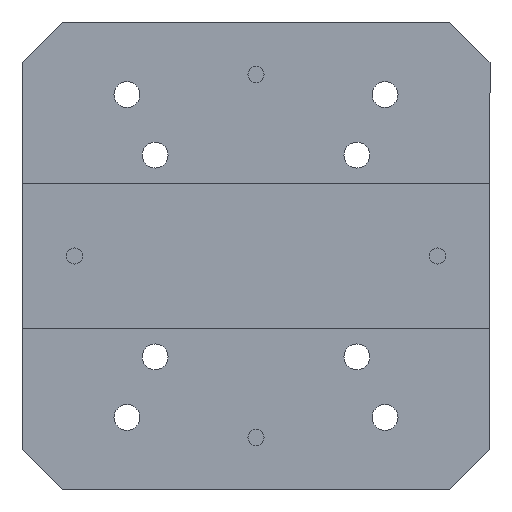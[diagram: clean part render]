
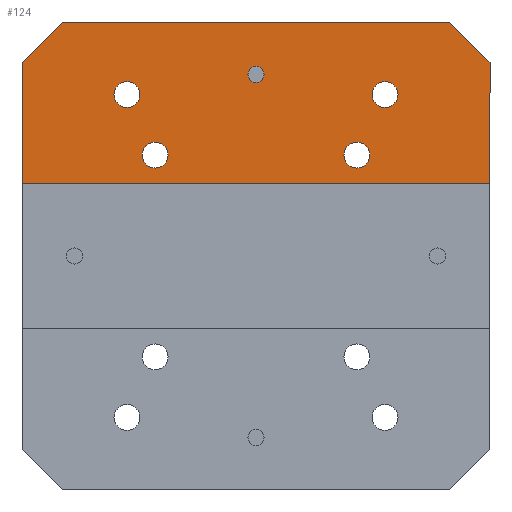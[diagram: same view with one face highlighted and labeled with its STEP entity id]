
A CAD part, front view. The second image highlights one B-rep face of the part: STEP entity #124.
In plain terms, the highlighted planar face has unit normal (0, -1, 0).
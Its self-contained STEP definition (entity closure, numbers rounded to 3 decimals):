
#124 = ADVANCED_FACE ( 'NONE', ( #5062, #2400, #4427, #1476, #4590, #2558 ), #5459, .T. ) ;
#179 = CARTESIAN_POINT ( 'NONE',  ( 13., -0.5, -9. ) ) ;
#241 = CARTESIAN_POINT ( 'NONE',  ( 58., -0.5, -20. ) ) ;
#249 = EDGE_CURVE ( 'NONE', #2523, #5905, #3416, .T. ) ;
#312 = CARTESIAN_POINT ( 'NONE',  ( 26.5, -0.5, 26.5 ) ) ;
#323 = CARTESIAN_POINT ( 'NONE',  ( 0., -0.5, 0. ) ) ;
#341 = CARTESIAN_POINT ( 'NONE',  ( 45., -0.5, -9. ) ) ;
#354 = LINE ( 'NONE', #1502, #974 ) ;
#374 = AXIS2_PLACEMENT_3D ( 'NONE', #1518, #4042, #5971 ) ;
#479 = EDGE_LOOP ( 'NONE', ( #1001, #5338 ) ) ;
#508 = EDGE_CURVE ( 'NONE', #1338, #6144, #1640, .T. ) ;
#593 = DIRECTION ( 'NONE',  ( 0., -1., 0. ) ) ;
#597 = ORIENTED_EDGE ( 'NONE', *, *, #3309, .T. ) ;
#610 = CARTESIAN_POINT ( 'NONE',  ( 5., -0.5, 0. ) ) ;
#632 = CARTESIAN_POINT ( 'NONE',  ( 16.5, -0.5, -14.9 ) ) ;
#656 = DIRECTION ( 'NONE',  ( 0., 0., -1. ) ) ;
#704 = VECTOR ( 'NONE', #1850, 1000. ) ;
#731 = CARTESIAN_POINT ( 'NONE',  ( 29., -0.5, -5.5 ) ) ;
#740 = CARTESIAN_POINT ( 'NONE',  ( 41.5, -0.5, -16.5 ) ) ;
#766 = CARTESIAN_POINT ( 'NONE',  ( 16.5, -0.5, -16.5 ) ) ;
#814 = VECTOR ( 'NONE', #5462, 1000. ) ;
#842 = CARTESIAN_POINT ( 'NONE',  ( 16.5, -0.5, -18.1 ) ) ;
#850 = DIRECTION ( 'NONE',  ( 0., 0., -1. ) ) ;
#874 = ORIENTED_EDGE ( 'NONE', *, *, #5184, .T. ) ;
#875 = CARTESIAN_POINT ( 'NONE',  ( 29., -0.5, -7.5 ) ) ;
#941 = AXIS2_PLACEMENT_3D ( 'NONE', #179, #3151, #656 ) ;
#964 = VECTOR ( 'NONE', #2287, 1000. ) ;
#974 = VECTOR ( 'NONE', #2522, 1000. ) ;
#1001 = ORIENTED_EDGE ( 'NONE', *, *, #2800, .F. ) ;
#1207 = CIRCLE ( 'NONE', #374, 1.6 ) ;
#1273 = CIRCLE ( 'NONE', #5675, 1.6 ) ;
#1281 = CIRCLE ( 'NONE', #1591, 1.6 ) ;
#1291 = LINE ( 'NONE', #241, #964 ) ;
#1338 = VERTEX_POINT ( 'NONE', #4525 ) ;
#1357 = EDGE_CURVE ( 'NONE', #6144, #1338, #5366, .T. ) ;
#1378 = DIRECTION ( 'NONE',  ( 0., -1., 0. ) ) ;
#1420 = DIRECTION ( 'NONE',  ( 0., -1., 0. ) ) ;
#1462 = CARTESIAN_POINT ( 'NONE',  ( 58., -0.5, -5. ) ) ;
#1476 = FACE_BOUND ( 'NONE', #3975, .T. ) ;
#1502 = CARTESIAN_POINT ( 'NONE',  ( 58., -0.5, 0. ) ) ;
#1518 = CARTESIAN_POINT ( 'NONE',  ( 13., -0.5, -9. ) ) ;
#1538 = CARTESIAN_POINT ( 'NONE',  ( 13., -0.5, -7.4 ) ) ;
#1581 = CARTESIAN_POINT ( 'NONE',  ( 53., -0.5, 0. ) ) ;
#1591 = AXIS2_PLACEMENT_3D ( 'NONE', #766, #3828, #850 ) ;
#1609 = LINE ( 'NONE', #2831, #1916 ) ;
#1640 = CIRCLE ( 'NONE', #3725, 1.6 ) ;
#1850 = DIRECTION ( 'NONE',  ( -0.707, 0., 0.707 ) ) ;
#1896 = CIRCLE ( 'NONE', #3413, 1.6 ) ;
#1912 = DIRECTION ( 'NONE',  ( 0., 0., -1. ) ) ;
#1916 = VECTOR ( 'NONE', #5331, 1000. ) ;
#1987 = CARTESIAN_POINT ( 'NONE',  ( 45., -0.5, -7.4 ) ) ;
#2012 = DIRECTION ( 'NONE',  ( 0., 0., -1. ) ) ;
#2086 = EDGE_LOOP ( 'NONE', ( #5907, #4497 ) ) ;
#2102 = AXIS2_PLACEMENT_3D ( 'NONE', #323, #5945, #2012 ) ;
#2115 = DIRECTION ( 'NONE',  ( 0., 0., -1. ) ) ;
#2141 = AXIS2_PLACEMENT_3D ( 'NONE', #5570, #5102, #2115 ) ;
#2175 = VERTEX_POINT ( 'NONE', #3296 ) ;
#2225 = LINE ( 'NONE', #5928, #814 ) ;
#2287 = DIRECTION ( 'NONE',  ( 1., 0., 0. ) ) ;
#2374 = EDGE_CURVE ( 'NONE', #2809, #2938, #5421, .T. ) ;
#2399 = ORIENTED_EDGE ( 'NONE', *, *, #4988, .T. ) ;
#2400 = FACE_BOUND ( 'NONE', #5898, .T. ) ;
#2474 = ORIENTED_EDGE ( 'NONE', *, *, #508, .F. ) ;
#2522 = DIRECTION ( 'NONE',  ( -1., 0., 0. ) ) ;
#2523 = VERTEX_POINT ( 'NONE', #875 ) ;
#2546 = CIRCLE ( 'NONE', #6281, 1.6 ) ;
#2558 = FACE_OUTER_BOUND ( 'NONE', #6212, .T. ) ;
#2668 = CARTESIAN_POINT ( 'NONE',  ( 41.5, -0.5, -16.5 ) ) ;
#2759 = CARTESIAN_POINT ( 'NONE',  ( 58., -0.5, 0. ) ) ;
#2769 = CARTESIAN_POINT ( 'NONE',  ( 0., -0.5, -20. ) ) ;
#2800 = EDGE_CURVE ( 'NONE', #3161, #6006, #1281, .T. ) ;
#2809 = VERTEX_POINT ( 'NONE', #4280 ) ;
#2831 = CARTESIAN_POINT ( 'NONE',  ( 0., -0.5, 0. ) ) ;
#2937 = CARTESIAN_POINT ( 'NONE',  ( 13., -0.5, -10.6 ) ) ;
#2938 = VERTEX_POINT ( 'NONE', #1462 ) ;
#2959 = ORIENTED_EDGE ( 'NONE', *, *, #2374, .T. ) ;
#3110 = VERTEX_POINT ( 'NONE', #610 ) ;
#3130 = EDGE_CURVE ( 'NONE', #5615, #6158, #3758, .T. ) ;
#3151 = DIRECTION ( 'NONE',  ( 0., -1., 0. ) ) ;
#3161 = VERTEX_POINT ( 'NONE', #632 ) ;
#3266 = DIRECTION ( 'NONE',  ( 0., 0., -1. ) ) ;
#3296 = CARTESIAN_POINT ( 'NONE',  ( 41.5, -0.5, -14.9 ) ) ;
#3309 = EDGE_CURVE ( 'NONE', #2938, #5763, #5406, .T. ) ;
#3320 = ORIENTED_EDGE ( 'NONE', *, *, #4143, .F. ) ;
#3387 = EDGE_CURVE ( 'NONE', #6006, #3161, #1896, .T. ) ;
#3413 = AXIS2_PLACEMENT_3D ( 'NONE', #4324, #1420, #1912 ) ;
#3416 = CIRCLE ( 'NONE', #5981, 1. ) ;
#3555 = CARTESIAN_POINT ( 'NONE',  ( 29., -0.5, -6.5 ) ) ;
#3709 = EDGE_CURVE ( 'NONE', #5905, #2523, #6090, .T. ) ;
#3725 = AXIS2_PLACEMENT_3D ( 'NONE', #341, #1378, #5896 ) ;
#3758 = CIRCLE ( 'NONE', #941, 1.6 ) ;
#3775 = VECTOR ( 'NONE', #5784, 1000. ) ;
#3828 = DIRECTION ( 'NONE',  ( 0., -1., 0. ) ) ;
#3832 = AXIS2_PLACEMENT_3D ( 'NONE', #3555, #6112, #4566 ) ;
#3975 = EDGE_LOOP ( 'NONE', ( #5684, #2474 ) ) ;
#4042 = DIRECTION ( 'NONE',  ( 0., -1., 0. ) ) ;
#4143 = EDGE_CURVE ( 'NONE', #5225, #2175, #1273, .T. ) ;
#4211 = DIRECTION ( 'NONE',  ( 0., -1., 0. ) ) ;
#4280 = CARTESIAN_POINT ( 'NONE',  ( 58., -0.5, -20. ) ) ;
#4324 = CARTESIAN_POINT ( 'NONE',  ( 16.5, -0.5, -16.5 ) ) ;
#4339 = ORIENTED_EDGE ( 'NONE', *, *, #4767, .F. ) ;
#4427 = FACE_BOUND ( 'NONE', #479, .T. ) ;
#4469 = VERTEX_POINT ( 'NONE', #6035 ) ;
#4483 = EDGE_LOOP ( 'NONE', ( #6298, #5089 ) ) ;
#4497 = ORIENTED_EDGE ( 'NONE', *, *, #3130, .F. ) ;
#4525 = CARTESIAN_POINT ( 'NONE',  ( 45., -0.5, -10.6 ) ) ;
#4566 = DIRECTION ( 'NONE',  ( 0., 0., -1. ) ) ;
#4590 = FACE_BOUND ( 'NONE', #2086, .T. ) ;
#4710 = DIRECTION ( 'NONE',  ( 0., 0., -1. ) ) ;
#4767 = EDGE_CURVE ( 'NONE', #2175, #5225, #2546, .T. ) ;
#4839 = ORIENTED_EDGE ( 'NONE', *, *, #6063, .T. ) ;
#4871 = EDGE_CURVE ( 'NONE', #5949, #2809, #1291, .T. ) ;
#4988 = EDGE_CURVE ( 'NONE', #4469, #5949, #1609, .T. ) ;
#5055 = CARTESIAN_POINT ( 'NONE',  ( 29., -0.5, -6.5 ) ) ;
#5062 = FACE_BOUND ( 'NONE', #4483, .T. ) ;
#5089 = ORIENTED_EDGE ( 'NONE', *, *, #3709, .F. ) ;
#5102 = DIRECTION ( 'NONE',  ( 0., -1., 0. ) ) ;
#5181 = DIRECTION ( 'NONE',  ( 0., -1., 0. ) ) ;
#5184 = EDGE_CURVE ( 'NONE', #5763, #3110, #354, .T. ) ;
#5225 = VERTEX_POINT ( 'NONE', #6404 ) ;
#5331 = DIRECTION ( 'NONE',  ( 0., 0., -1. ) ) ;
#5338 = ORIENTED_EDGE ( 'NONE', *, *, #3387, .F. ) ;
#5366 = CIRCLE ( 'NONE', #2141, 1.6 ) ;
#5406 = LINE ( 'NONE', #312, #704 ) ;
#5421 = LINE ( 'NONE', #2759, #3775 ) ;
#5459 = PLANE ( 'NONE',  #2102 ) ;
#5462 = DIRECTION ( 'NONE',  ( -0.707, 0., -0.707 ) ) ;
#5570 = CARTESIAN_POINT ( 'NONE',  ( 45., -0.5, -9. ) ) ;
#5615 = VERTEX_POINT ( 'NONE', #2937 ) ;
#5675 = AXIS2_PLACEMENT_3D ( 'NONE', #740, #4211, #3266 ) ;
#5684 = ORIENTED_EDGE ( 'NONE', *, *, #1357, .F. ) ;
#5763 = VERTEX_POINT ( 'NONE', #1581 ) ;
#5784 = DIRECTION ( 'NONE',  ( 0., 0., 1. ) ) ;
#5896 = DIRECTION ( 'NONE',  ( 0., 0., -1. ) ) ;
#5898 = EDGE_LOOP ( 'NONE', ( #4339, #3320 ) ) ;
#5905 = VERTEX_POINT ( 'NONE', #731 ) ;
#5907 = ORIENTED_EDGE ( 'NONE', *, *, #6174, .F. ) ;
#5928 = CARTESIAN_POINT ( 'NONE',  ( 2.5, -0.5, -2.5 ) ) ;
#5945 = DIRECTION ( 'NONE',  ( 0., -1., 0. ) ) ;
#5949 = VERTEX_POINT ( 'NONE', #2769 ) ;
#5971 = DIRECTION ( 'NONE',  ( 0., 0., -1. ) ) ;
#5981 = AXIS2_PLACEMENT_3D ( 'NONE', #5055, #593, #5993 ) ;
#5993 = DIRECTION ( 'NONE',  ( 0., 0., -1. ) ) ;
#6006 = VERTEX_POINT ( 'NONE', #842 ) ;
#6035 = CARTESIAN_POINT ( 'NONE',  ( 0., -0.5, -5. ) ) ;
#6063 = EDGE_CURVE ( 'NONE', #3110, #4469, #2225, .T. ) ;
#6084 = ORIENTED_EDGE ( 'NONE', *, *, #4871, .T. ) ;
#6090 = CIRCLE ( 'NONE', #3832, 1. ) ;
#6112 = DIRECTION ( 'NONE',  ( 0., -1., 0. ) ) ;
#6144 = VERTEX_POINT ( 'NONE', #1987 ) ;
#6158 = VERTEX_POINT ( 'NONE', #1538 ) ;
#6174 = EDGE_CURVE ( 'NONE', #6158, #5615, #1207, .T. ) ;
#6212 = EDGE_LOOP ( 'NONE', ( #874, #4839, #2399, #6084, #2959, #597 ) ) ;
#6281 = AXIS2_PLACEMENT_3D ( 'NONE', #2668, #5181, #4710 ) ;
#6298 = ORIENTED_EDGE ( 'NONE', *, *, #249, .F. ) ;
#6404 = CARTESIAN_POINT ( 'NONE',  ( 41.5, -0.5, -18.1 ) ) ;
